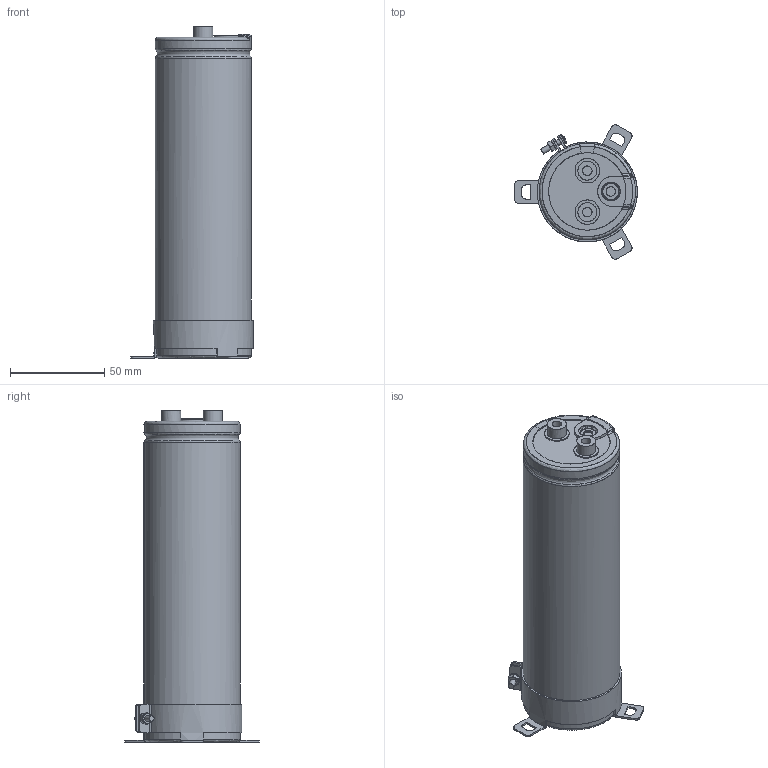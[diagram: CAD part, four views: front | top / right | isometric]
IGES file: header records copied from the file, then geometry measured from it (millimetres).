
Start section: JAMA-IS VERSION  1.0
Bounding box: 65 x 71.22 x 176 mm (x, y, z)
Surface area: 95774.9 mm2 (no closed solid volume)
Topology: 0 solids, 0 shells, 298 faces, 4625 edges, 4595 vertices
Faces by surface type: bspline 298
